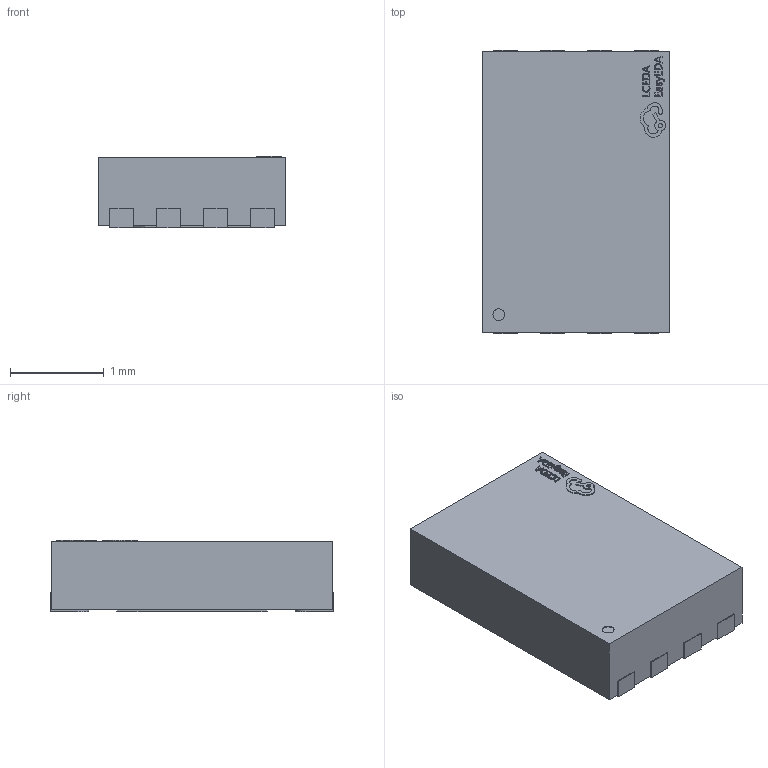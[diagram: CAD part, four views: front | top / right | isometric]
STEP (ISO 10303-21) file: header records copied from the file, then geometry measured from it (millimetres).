
FILE_DESCRIPTION (( 'STEP AP214' ), '1' );
FILE_NAME ('DFN-8_L3.0-W2.0-P0.50-BL-EP1.6.step', '2022-06-30T13:26:20', ( '' ), ( '' ), 'SwSTEP 2.0', 'SolidWorks 2020', '' );
FILE_SCHEMA (( 'AUTOMOTIVE_DESIGN' ));
Length unit declared in the file: millimetre
Products named in the file (1): DFN-8_L3.0-W2.0-P0.50-BL-EP1.6
Bounding box: 2 x 3.02 x 0.76 mm (x, y, z)
Volume: 4.4 mm3; surface area: 19.8 mm2
Topology: 1 solids, 1 shells, 346 faces, 948 edges, 632 vertices
Faces by surface type: plane 224, bspline 112, cylinder 10
Entity records: 15904 total; most frequent: CARTESIAN_POINT 4031, ORIENTED_EDGE 1896, DIRECTION 1210, EDGE_CURVE 948, VECTOR 700, LINE 700, VERTEX_POINT 632, EDGE_LOOP 374
